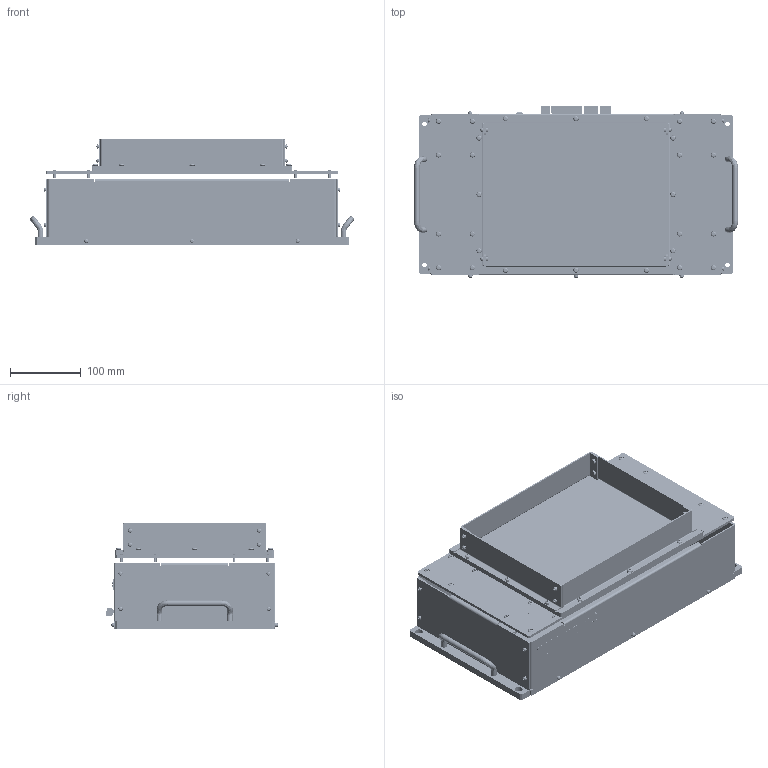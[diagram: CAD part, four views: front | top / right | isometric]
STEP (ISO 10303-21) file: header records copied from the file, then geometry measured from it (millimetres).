
FILE_DESCRIPTION (( 'STEP AP203' ), '1' );
FILE_NAME ('柔性振散盘,QFF-2620,250盘面.STEP', '2022-08-06T09:02:17', ( '' ), ( '' ), 'SwSTEP 2.0', 'SolidWorks 2017', '' );
FILE_SCHEMA (( 'CONFIG_CONTROL_DESIGN' ));
Products named in the file (1): 柔性振散盘,QFF-2620,250盘面
Bounding box: 459.3 x 243.28 x 149 mm (x, y, z)
Volume: 1846100.3 mm3; surface area: 864769.5 mm2
Topology: 148 solids, 148 shells, 6409 faces, 15742 edges, 10244 vertices
Faces by surface type: plane 3467, cylinder 1368, bspline 1055, cone 369, torus 146, sphere 4
Entity records: 220920 total; most frequent: CARTESIAN_POINT 73509, ORIENTED_EDGE 31468, DIRECTION 27511, EDGE_CURVE 15734, VERTEX_POINT 10244, VECTOR 10033, LINE 10033, AXIS2_PLACEMENT_3D 8739
